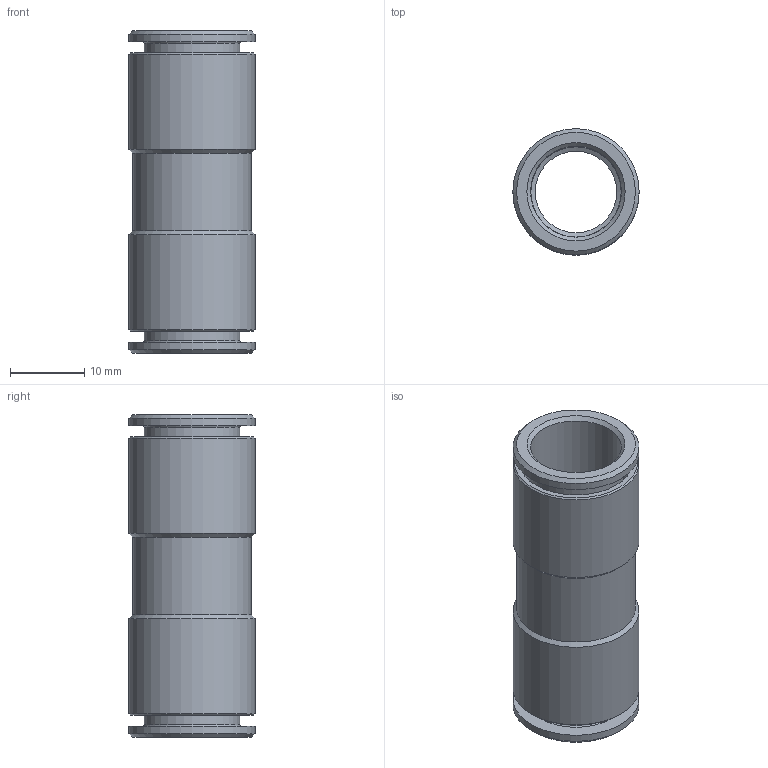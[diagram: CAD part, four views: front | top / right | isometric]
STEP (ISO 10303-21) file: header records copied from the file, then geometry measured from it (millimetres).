
FILE_DESCRIPTION(('Bauteilbeschreibung','HiCAD-Model','HiCAD-STEP-TRANSLATION','Bauteilbeschreibung'),'2;1');
FILE_NAME('B:/ABGLEICH/ZEICHNUNGEN/STEP FÜR INTERNET/STEP/200306_IPSO_03_12.STP','2011-07-19T16:30:36+00:00',('Konstrukteur'),('Konstrukteur Firma GmbH'),' HiCAD neXt 2008, Step 3.1.1401.2J ','HiCAD neXt 2008','confidential');
FILE_SCHEMA(('AUTOMOTIVE_DESIGN { 1 2 10303 214 0 1 1 1 }'));
Length unit declared in the file: millimetre
Products named in the file (4): A00306_IPSO_03_12; R200306; DR12_5; DR1205
Assembly tree (3 placements, depth 2):
  A00306_IPSO_03_12
    R200306
    DR12_5
    DR1205
Bounding box: 17 x 17 x 43.5 mm (x, y, z)
Volume: 3306.9 mm3; surface area: 6362.8 mm2
Topology: 3 solids, 3 shells, 54 faces, 104 edges, 60 vertices
Faces by surface type: cone 22, cylinder 18, plane 10, torus 4
Full cylindrical faces by diameter (mm): 11 x1, 12.15 x2, 12.25 x2, 12.9 x2, 14.5 x2, 14.7 x2, 15.2 x2, 16 x1, 17 x4
Entity records: 1471 total; most frequent: DIRECTION 228, CARTESIAN_POINT 168, AXIS2_PLACEMENT_3D 114, EDGE_LOOP 108, ORIENTED_EDGE 108, COLOUR_RGB 57, PRESENTATION_STYLE_ASSIGNMENT 57, ADVANCED_FACE 54
